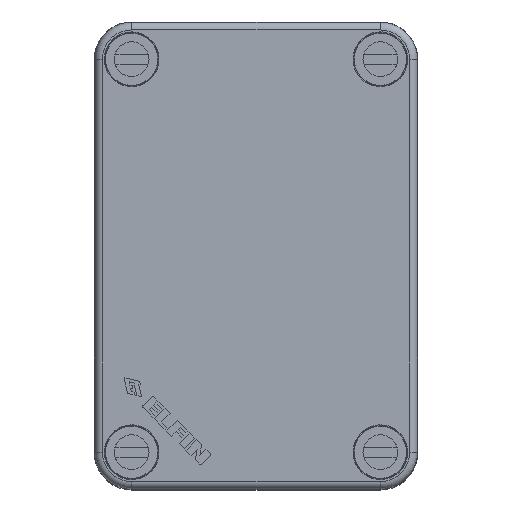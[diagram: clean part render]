
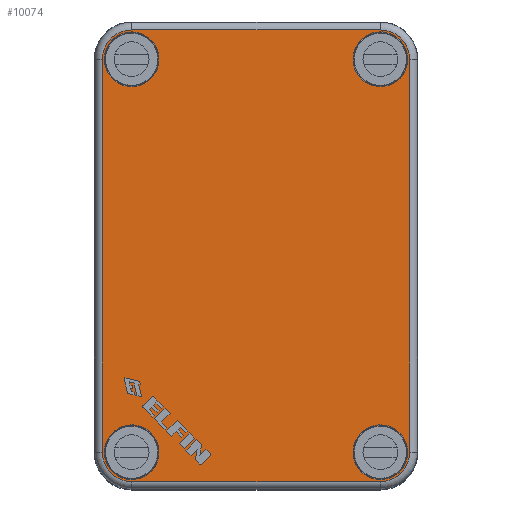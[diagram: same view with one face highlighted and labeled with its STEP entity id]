
A CAD part, top view. The second image highlights one B-rep face of the part: STEP entity #10074.
In plain terms, the highlighted planar face has unit normal (0, 0, 1).
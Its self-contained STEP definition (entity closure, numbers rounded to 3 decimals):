
#98 = AXIS2_PLACEMENT_3D ( 'NONE', #19034, #7984, #20844 ) ;
#115 = AXIS2_PLACEMENT_3D ( 'NONE', #20960, #9969, #22776 ) ;
#191 = ORIENTED_EDGE ( 'NONE', *, *, #2903, .T. ) ;
#856 = ORIENTED_EDGE ( 'NONE', *, *, #16360, .F. ) ;
#1007 = DIRECTION ( 'NONE',  ( -1., 0., 0. ) ) ;
#1115 = ORIENTED_EDGE ( 'NONE', *, *, #16625, .T. ) ;
#1116 = EDGE_CURVE ( 'NONE', #1859, #15401, #13324, .T. ) ;
#1158 = CARTESIAN_POINT ( 'NONE',  ( -21.546, -43.78, 88.29 ) ) ;
#1254 = DIRECTION ( 'NONE',  ( -1., 0., 0. ) ) ;
#1409 = PLANE ( 'NONE',  #22729 ) ;
#1441 = ORIENTED_EDGE ( 'NONE', *, *, #3684, .T. ) ;
#1461 = CARTESIAN_POINT ( 'NONE',  ( -25., 39.5, 88.29 ) ) ;
#1639 = EDGE_CURVE ( 'NONE', #20816, #23929, #2758, .T. ) ;
#1657 = ORIENTED_EDGE ( 'NONE', *, *, #11261, .F. ) ;
#1810 = CARTESIAN_POINT ( 'NONE',  ( 25., 45.392, 88.29 ) ) ;
#1859 = VERTEX_POINT ( 'NONE', #19528 ) ;
#1920 = CARTESIAN_POINT ( 'NONE',  ( -25., 45.392, 88.29 ) ) ;
#2242 = EDGE_CURVE ( 'NONE', #11709, #18956, #12853, .T. ) ;
#2319 = EDGE_LOOP ( 'NONE', ( #1441, #7342 ) ) ;
#2399 = AXIS2_PLACEMENT_3D ( 'NONE', #9207, #22023, #11071 ) ;
#2673 = VERTEX_POINT ( 'NONE', #1158 ) ;
#2711 = VERTEX_POINT ( 'NONE', #8715 ) ;
#2758 = CIRCLE ( 'NONE', #8440, 5.892 ) ;
#2805 = AXIS2_PLACEMENT_3D ( 'NONE', #6200, #19134, #8083 ) ;
#2881 = ORIENTED_EDGE ( 'NONE', *, *, #20547, .F. ) ;
#2903 = EDGE_CURVE ( 'NONE', #13362, #12136, #13969, .T. ) ;
#3052 = DIRECTION ( 'NONE',  ( 0., 0., -1. ) ) ;
#3060 = AXIS2_PLACEMENT_3D ( 'NONE', #23126, #12199, #1007 ) ;
#3161 = ORIENTED_EDGE ( 'NONE', *, *, #18592, .T. ) ;
#3339 = DIRECTION ( 'NONE',  ( -1., 0., 0. ) ) ;
#3534 = CARTESIAN_POINT ( 'NONE',  ( -25., -39.5, 88.29 ) ) ;
#3535 = DIRECTION ( 'NONE',  ( 0., 0., -1. ) ) ;
#3632 = CARTESIAN_POINT ( 'NONE',  ( 25., 39.5, 88.29 ) ) ;
#3684 = EDGE_CURVE ( 'NONE', #5966, #16850, #13036, .T. ) ;
#3937 = LINE ( 'NONE', #17278, #13293 ) ;
#4006 = CIRCLE ( 'NONE', #18529, 5.892 ) ;
#4125 = AXIS2_PLACEMENT_3D ( 'NONE', #23358, #12440, #1254 ) ;
#4184 = FACE_BOUND ( 'NONE', #23288, .T. ) ;
#4884 = ORIENTED_EDGE ( 'NONE', *, *, #21775, .T. ) ;
#5059 = EDGE_LOOP ( 'NONE', ( #18392, #6489 ) ) ;
#5113 = CARTESIAN_POINT ( 'NONE',  ( 30.892, 39.5, 88.29 ) ) ;
#5418 = DIRECTION ( 'NONE',  ( -1., 0., 0. ) ) ;
#5457 = LINE ( 'NONE', #9316, #9819 ) ;
#5511 = DIRECTION ( 'NONE',  ( -1., 0., 0. ) ) ;
#5748 = CARTESIAN_POINT ( 'NONE',  ( 25., 39.5, 88.29 ) ) ;
#5966 = VERTEX_POINT ( 'NONE', #23224 ) ;
#6178 = CIRCLE ( 'NONE', #22046, 5.5 ) ;
#6200 = CARTESIAN_POINT ( 'NONE',  ( -25., 39.5, 88.29 ) ) ;
#6489 = ORIENTED_EDGE ( 'NONE', *, *, #2242, .T. ) ;
#6696 = VERTEX_POINT ( 'NONE', #1920 ) ;
#6848 = EDGE_CURVE ( 'NONE', #15401, #20816, #3937, .T. ) ;
#7342 = ORIENTED_EDGE ( 'NONE', *, *, #22582, .T. ) ;
#7606 = EDGE_CURVE ( 'NONE', #2673, #2711, #16411, .T. ) ;
#7643 = DIRECTION ( 'NONE',  ( -1., 0., 0. ) ) ;
#7939 = CARTESIAN_POINT ( 'NONE',  ( 25., 45.392, 88.29 ) ) ;
#7960 = CARTESIAN_POINT ( 'NONE',  ( 19.511, 39.852, 88.29 ) ) ;
#7984 = DIRECTION ( 'NONE',  ( 0., 0., -1. ) ) ;
#8083 = DIRECTION ( 'NONE',  ( -1., 0., 0. ) ) ;
#8440 = AXIS2_PLACEMENT_3D ( 'NONE', #14240, #3052, #16080 ) ;
#8715 = CARTESIAN_POINT ( 'NONE',  ( -28.454, -35.22, 88.29 ) ) ;
#8767 = CARTESIAN_POINT ( 'NONE',  ( -21.546, 43.78, 88.29 ) ) ;
#9156 = VERTEX_POINT ( 'NONE', #15286 ) ;
#9207 = CARTESIAN_POINT ( 'NONE',  ( 25., -39.5, 88.29 ) ) ;
#9316 = CARTESIAN_POINT ( 'NONE',  ( -30.892, -39.5, 88.29 ) ) ;
#9529 = AXIS2_PLACEMENT_3D ( 'NONE', #1461, #14524, #3339 ) ;
#9718 = ORIENTED_EDGE ( 'NONE', *, *, #12328, .F. ) ;
#9752 = FACE_BOUND ( 'NONE', #22026, .T. ) ;
#9798 = CIRCLE ( 'NONE', #2399, 5.5 ) ;
#9819 = VECTOR ( 'NONE', #11190, 1000. ) ;
#9969 = DIRECTION ( 'NONE',  ( 0., 0., -1. ) ) ;
#10074 = ADVANCED_FACE ( 'NONE', ( #23786, #9752, #10326, #4184, #23212 ), #1409, .F. ) ;
#10326 = FACE_BOUND ( 'NONE', #5059, .T. ) ;
#10817 = DIRECTION ( 'NONE',  ( -1., 0., 0. ) ) ;
#10875 = VERTEX_POINT ( 'NONE', #20538 ) ;
#11071 = DIRECTION ( 'NONE',  ( -1., 0., 0. ) ) ;
#11190 = DIRECTION ( 'NONE',  ( 0., 1., 0. ) ) ;
#11261 = EDGE_CURVE ( 'NONE', #22038, #10875, #4006, .T. ) ;
#11299 = CARTESIAN_POINT ( 'NONE',  ( 25., -45.392, 88.29 ) ) ;
#11709 = VERTEX_POINT ( 'NONE', #8767 ) ;
#12079 = EDGE_CURVE ( 'NONE', #18956, #11709, #21551, .T. ) ;
#12136 = VERTEX_POINT ( 'NONE', #15599 ) ;
#12199 = DIRECTION ( 'NONE',  ( 0., 0., -1. ) ) ;
#12328 = EDGE_CURVE ( 'NONE', #10875, #1859, #23813, .T. ) ;
#12440 = DIRECTION ( 'NONE',  ( 0., 0., -1. ) ) ;
#12679 = CIRCLE ( 'NONE', #115, 5.892 ) ;
#12853 = CIRCLE ( 'NONE', #9529, 5.5 ) ;
#12932 = LINE ( 'NONE', #1810, #22052 ) ;
#13036 = CIRCLE ( 'NONE', #21785, 5.5 ) ;
#13293 = VECTOR ( 'NONE', #15414, 1000. ) ;
#13324 = CIRCLE ( 'NONE', #3060, 5.892 ) ;
#13362 = VERTEX_POINT ( 'NONE', #21392 ) ;
#13366 = ORIENTED_EDGE ( 'NONE', *, *, #6848, .F. ) ;
#13607 = CARTESIAN_POINT ( 'NONE',  ( -30.892, -39.5, 88.29 ) ) ;
#13969 = CIRCLE ( 'NONE', #98, 5.5 ) ;
#14157 = VECTOR ( 'NONE', #16255, 1000. ) ;
#14240 = CARTESIAN_POINT ( 'NONE',  ( -25., -39.5, 88.29 ) ) ;
#14524 = DIRECTION ( 'NONE',  ( 0., 0., -1. ) ) ;
#14666 = ORIENTED_EDGE ( 'NONE', *, *, #1116, .F. ) ;
#14718 = CARTESIAN_POINT ( 'NONE',  ( -25., -39.5, 88.29 ) ) ;
#15149 = CIRCLE ( 'NONE', #4125, 5.5 ) ;
#15209 = AXIS2_PLACEMENT_3D ( 'NONE', #14718, #3535, #16555 ) ;
#15286 = CARTESIAN_POINT ( 'NONE',  ( -30.892, 39.5, 88.29 ) ) ;
#15401 = VERTEX_POINT ( 'NONE', #11299 ) ;
#15414 = DIRECTION ( 'NONE',  ( -1., 0., 0. ) ) ;
#15599 = CARTESIAN_POINT ( 'NONE',  ( 19.511, -39.852, 88.29 ) ) ;
#15857 = CARTESIAN_POINT ( 'NONE',  ( -28.454, 35.22, 88.29 ) ) ;
#16080 = DIRECTION ( 'NONE',  ( -1., 0., 0. ) ) ;
#16255 = DIRECTION ( 'NONE',  ( 0., -1., 0. ) ) ;
#16360 = EDGE_CURVE ( 'NONE', #23929, #9156, #5457, .T. ) ;
#16411 = CIRCLE ( 'NONE', #15209, 5.5 ) ;
#16548 = DIRECTION ( 'NONE',  ( 0., 0., -1. ) ) ;
#16555 = DIRECTION ( 'NONE',  ( -1., 0., 0. ) ) ;
#16625 = EDGE_CURVE ( 'NONE', #12136, #13362, #9798, .T. ) ;
#16639 = DIRECTION ( 'NONE',  ( 0., 0., -1. ) ) ;
#16850 = VERTEX_POINT ( 'NONE', #7960 ) ;
#17278 = CARTESIAN_POINT ( 'NONE',  ( 25., -45.392, 88.29 ) ) ;
#18161 = CARTESIAN_POINT ( 'NONE',  ( 25., 45.173, 88.29 ) ) ;
#18392 = ORIENTED_EDGE ( 'NONE', *, *, #12079, .T. ) ;
#18529 = AXIS2_PLACEMENT_3D ( 'NONE', #3632, #16639, #5511 ) ;
#18592 = EDGE_CURVE ( 'NONE', #22038, #6696, #12932, .T. ) ;
#18723 = DIRECTION ( 'NONE',  ( 0., 0., -1. ) ) ;
#18956 = VERTEX_POINT ( 'NONE', #15857 ) ;
#19034 = CARTESIAN_POINT ( 'NONE',  ( 25., -39.5, 88.29 ) ) ;
#19095 = EDGE_LOOP ( 'NONE', ( #3161, #2881, #856, #22171, #13366, #14666, #9718, #1657 ) ) ;
#19134 = DIRECTION ( 'NONE',  ( 0., 0., -1. ) ) ;
#19528 = CARTESIAN_POINT ( 'NONE',  ( 30.892, -39.5, 88.29 ) ) ;
#20267 = CARTESIAN_POINT ( 'NONE',  ( -25., -45.392, 88.29 ) ) ;
#20480 = ORIENTED_EDGE ( 'NONE', *, *, #7606, .T. ) ;
#20538 = CARTESIAN_POINT ( 'NONE',  ( 30.892, 39.5, 88.29 ) ) ;
#20547 = EDGE_CURVE ( 'NONE', #9156, #6696, #12679, .T. ) ;
#20816 = VERTEX_POINT ( 'NONE', #20267 ) ;
#20844 = DIRECTION ( 'NONE',  ( -1., 0., 0. ) ) ;
#20960 = CARTESIAN_POINT ( 'NONE',  ( -25., 39.5, 88.29 ) ) ;
#21392 = CARTESIAN_POINT ( 'NONE',  ( 30.489, -39.148, 88.29 ) ) ;
#21551 = CIRCLE ( 'NONE', #2805, 5.5 ) ;
#21770 = DIRECTION ( 'NONE',  ( 0., 0., -1. ) ) ;
#21775 = EDGE_CURVE ( 'NONE', #2711, #2673, #6178, .T. ) ;
#21785 = AXIS2_PLACEMENT_3D ( 'NONE', #5748, #18723, #7643 ) ;
#22023 = DIRECTION ( 'NONE',  ( 0., 0., -1. ) ) ;
#22026 = EDGE_LOOP ( 'NONE', ( #20480, #4884 ) ) ;
#22038 = VERTEX_POINT ( 'NONE', #7939 ) ;
#22046 = AXIS2_PLACEMENT_3D ( 'NONE', #3534, #16548, #5418 ) ;
#22052 = VECTOR ( 'NONE', #23895, 1000. ) ;
#22171 = ORIENTED_EDGE ( 'NONE', *, *, #1639, .F. ) ;
#22582 = EDGE_CURVE ( 'NONE', #16850, #5966, #15149, .T. ) ;
#22729 = AXIS2_PLACEMENT_3D ( 'NONE', #18161, #21770, #10817 ) ;
#22776 = DIRECTION ( 'NONE',  ( -1., 0., 0. ) ) ;
#23126 = CARTESIAN_POINT ( 'NONE',  ( 25., -39.5, 88.29 ) ) ;
#23212 = FACE_BOUND ( 'NONE', #2319, .T. ) ;
#23224 = CARTESIAN_POINT ( 'NONE',  ( 30.489, 39.148, 88.29 ) ) ;
#23288 = EDGE_LOOP ( 'NONE', ( #1115, #191 ) ) ;
#23358 = CARTESIAN_POINT ( 'NONE',  ( 25., 39.5, 88.29 ) ) ;
#23786 = FACE_OUTER_BOUND ( 'NONE', #19095, .T. ) ;
#23813 = LINE ( 'NONE', #5113, #14157 ) ;
#23895 = DIRECTION ( 'NONE',  ( -1., 0., 0. ) ) ;
#23929 = VERTEX_POINT ( 'NONE', #13607 ) ;
